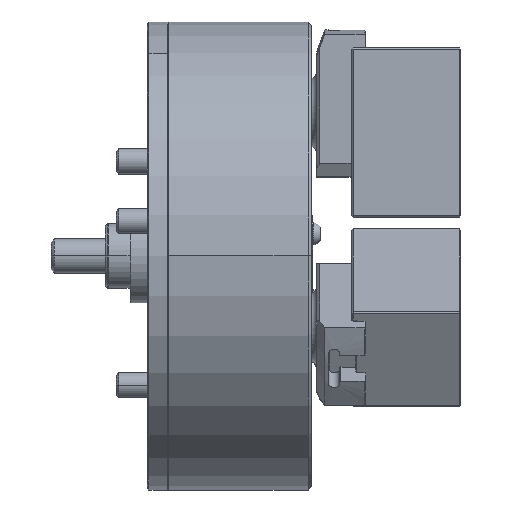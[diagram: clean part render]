
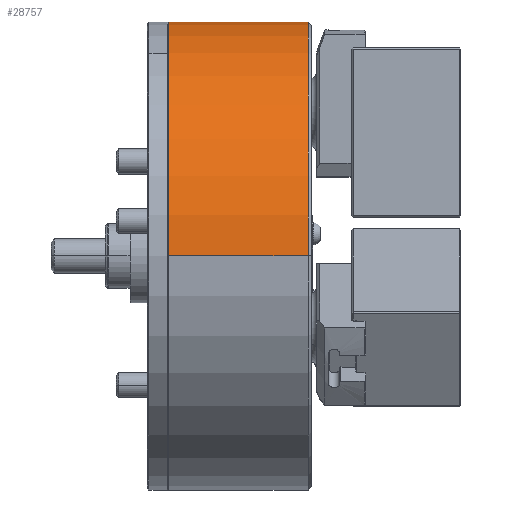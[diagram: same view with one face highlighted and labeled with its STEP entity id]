
A CAD part, top view. The second image highlights one B-rep face of the part: STEP entity #28757.
In plain terms, the highlighted cylindrical face has radius 150 mm (diameter 300 mm), a partial arc.
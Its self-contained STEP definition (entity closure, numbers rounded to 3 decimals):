
#1070 = CARTESIAN_POINT ( 'NONE',  ( -2., 0., 0. ) ) ;
#2383 = DIRECTION ( 'NONE',  ( 1., 0., 0. ) ) ;
#9300 = AXIS2_PLACEMENT_3D ( 'NONE', #1070, #15531, #33703 ) ;
#9711 = CARTESIAN_POINT ( 'NONE',  ( -91.2, 0., 150. ) ) ;
#10271 = EDGE_CURVE ( 'NONE', #27435, #27900, #43995, .T. ) ;
#11716 = VECTOR ( 'NONE', #45750, 1000. ) ;
#14118 = VECTOR ( 'NONE', #40474, 1000. ) ;
#15531 = DIRECTION ( 'NONE',  ( 1., 0., 0. ) ) ;
#16971 = LINE ( 'NONE', #31343, #11716 ) ;
#17733 = CYLINDRICAL_SURFACE ( 'NONE', #22896, 150. ) ;
#17831 = CARTESIAN_POINT ( 'NONE',  ( 63.843, 0., 150. ) ) ;
#18440 = CARTESIAN_POINT ( 'NONE',  ( -2., 0., 150. ) ) ;
#19758 = EDGE_LOOP ( 'NONE', ( #26099, #27740, #40681, #30428 ) ) ;
#22403 = CIRCLE ( 'NONE', #44289, 150. ) ;
#22896 = AXIS2_PLACEMENT_3D ( 'NONE', #35431, #42765, #25064 ) ;
#23501 = VERTEX_POINT ( 'NONE', #27687 ) ;
#25064 = DIRECTION ( 'NONE',  ( 0., 0., -1. ) ) ;
#26099 = ORIENTED_EDGE ( 'NONE', *, *, #29814, .T. ) ;
#26490 = EDGE_CURVE ( 'NONE', #23501, #27435, #16971, .T. ) ;
#27435 = VERTEX_POINT ( 'NONE', #41846 ) ;
#27682 = DIRECTION ( 'NONE',  ( 0., 0., -1. ) ) ;
#27687 = CARTESIAN_POINT ( 'NONE',  ( -91.2, 0., -150. ) ) ;
#27740 = ORIENTED_EDGE ( 'NONE', *, *, #29634, .T. ) ;
#27900 = VERTEX_POINT ( 'NONE', #18440 ) ;
#28757 = ADVANCED_FACE ( 'NONE', ( #46528 ), #17733, .T. ) ;
#29634 = EDGE_CURVE ( 'NONE', #45356, #27900, #35766, .T. ) ;
#29814 = EDGE_CURVE ( 'NONE', #23501, #45356, #22403, .T. ) ;
#30428 = ORIENTED_EDGE ( 'NONE', *, *, #26490, .F. ) ;
#31343 = CARTESIAN_POINT ( 'NONE',  ( 63.843, 0., -150. ) ) ;
#33703 = DIRECTION ( 'NONE',  ( 0., 0., -1. ) ) ;
#34785 = CARTESIAN_POINT ( 'NONE',  ( -91.2, 0., 0. ) ) ;
#35431 = CARTESIAN_POINT ( 'NONE',  ( 63.843, 0., 0. ) ) ;
#35766 = LINE ( 'NONE', #17831, #14118 ) ;
#40474 = DIRECTION ( 'NONE',  ( 1., 0., 0. ) ) ;
#40681 = ORIENTED_EDGE ( 'NONE', *, *, #10271, .F. ) ;
#41846 = CARTESIAN_POINT ( 'NONE',  ( -2., 0., -150. ) ) ;
#42765 = DIRECTION ( 'NONE',  ( 1., 0., 0. ) ) ;
#43995 = CIRCLE ( 'NONE', #9300, 150. ) ;
#44289 = AXIS2_PLACEMENT_3D ( 'NONE', #34785, #2383, #27682 ) ;
#45356 = VERTEX_POINT ( 'NONE', #9711 ) ;
#45750 = DIRECTION ( 'NONE',  ( 1., 0., 0. ) ) ;
#46528 = FACE_OUTER_BOUND ( 'NONE', #19758, .T. ) ;
